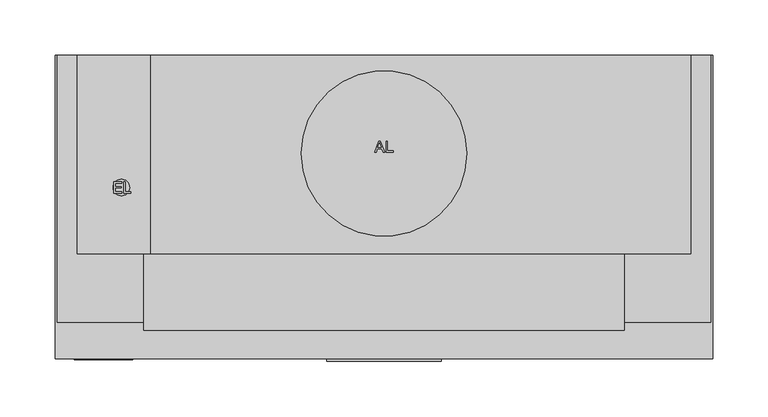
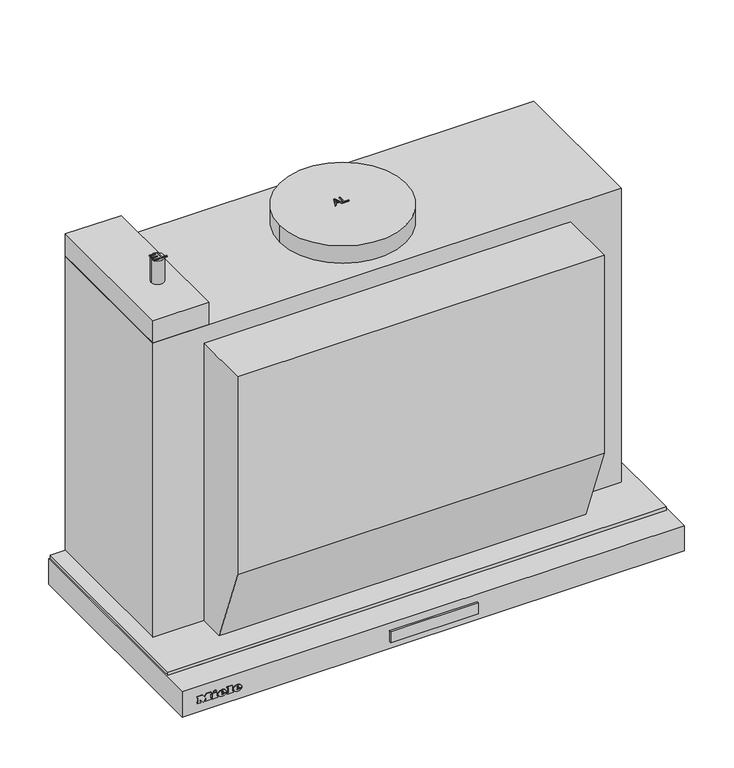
"""IFC4 building model written with IfcOpenShell, lengths in millimetres: proxy geometry, 12815100_HK_DAS2620-1_EDST : 28S2621S_HK_12815100_DAS2620-1_EDST."""

from ifc_helpers import new_model, si_unit, point, frame, frame_2d, origin, origin_with_axes, place, context, project, spatial, polyline, circle_curve, ellipse_curve, trimmed, segment, composite_curve, outline, extrude, faceted_brep, source, transform, mapped, element, save
from ifc_brep_helpers import plane_surface, cylinder_surface, revolved_surface, extruded_surface, advanced_brep


def specialty_equipment_4cb3f687(model_context):
    return source(origin(), model_context, "Body", "SolidModel", [
        extrude(outline(polyline([(52.0, -275.0), (52.0, -277.3978707), (-52.0, -277.3978707), (-52.0, -275.0), (52.0, -275.0)])), frame((0.0, 0.0, -23.0389651), z_axis=(0.0, 0.0, 1.0), x_axis=(1.0, 0.0, 0.0)), (0.0, 0.0, 1.0), 13.3389155),
        advanced_brep(
        [(-233.4590019, -276.0, -18.7681017), (-233.4590019, -276.0, -17.8894017), (-227.6387019, -276.0, -17.8894017), (-237.7655019, -276.0, -17.8894017), (-235.3730019, -276.0, -20.8300017), (-227.7866019, -276.0, -18.7681017), (-230.4140019, -276.0, -18.7681017), (-232.4846019, -276.0, -19.7425017), (-233.4590019, -276.0, -16.7758017), (-233.4590019, -276.0, -15.8275017), (-231.9713019, -276.0, -15.8275017), (-231.9713019, -276.0, -16.7758017), (-233.4590019, -275.0, -18.7681017), (-232.4846019, -275.0, -19.7425017), (-230.4140019, -275.0, -18.7681017), (-227.7866019, -275.0, -18.7681017), (-235.3730019, -275.0, -20.8300017), (-237.7655019, -275.0, -17.8894017), (-227.6387019, -275.0, -17.8894017), (-233.4590019, -275.0, -17.8894017), (-233.4590019, -275.0, -16.7758017), (-231.9713019, -275.0, -16.7758017), (-231.9713019, -275.0, -15.8275017), (-233.4590019, -275.0, -15.8275017)],
        [
            (0, 1),
            (1, 2),
            (2, 3, ellipse_curve(frame((-232.7021019, -276.0, -17.8894017), z_axis=(0.0, -1.0, 0.0), x_axis=(-1.0, 0.0, 0.0)), 5.0634, 4.1847)),
            (3, 4, circle_curve(frame((-234.3985544, -276.0, -17.5936017), z_axis=(0.0, -1.0, 0.0), x_axis=(0.0, 0.0, -1.0)), 3.3799161)),
            (4, 5, circle_curve(frame((-232.8034638, -276.0, -15.2968017), z_axis=(0.0, -1.0, 0.0), x_axis=(0.0, 0.0, -1.0)), 6.1007236)),
            (5, 6),
            (6, 7, circle_curve(frame((-232.0593254, -276.0, -17.9590017), z_axis=(0.0, 1.0, 0.0), x_axis=(0.0, 0.0, -1.0)), 1.8335027)),
            (7, 0, circle_curve(frame((-232.4846019, -276.0, -18.7681017), z_axis=(0.0, 1.0, 0.0), x_axis=(0.0, 0.0, -1.0)), 0.9744)),
            (8, 9),
            (9, 10, circle_curve(frame((-232.7151519, -276.0, -15.8275017), z_axis=(0.0, 1.0, 0.0), x_axis=(0.0, 0.0, -1.0)), 0.74385)),
            (10, 11),
            (11, 8),
            (12, 13, circle_curve(frame((-232.4846019, -275.0, -18.7681017), z_axis=(0.0, -1.0, 0.0), x_axis=(0.0, 0.0, -1.0)), 0.9744)),
            (13, 14, circle_curve(frame((-232.0593254, -275.0, -17.9590017), z_axis=(0.0, -1.0, 0.0), x_axis=(0.0, 0.0, -1.0)), 1.8335027)),
            (14, 15),
            (15, 16, circle_curve(frame((-232.8034638, -275.0, -15.2968017), z_axis=(0.0, 1.0, 0.0), x_axis=(0.0, 0.0, -1.0)), 6.1007236)),
            (16, 17, circle_curve(frame((-234.3985544, -275.0, -17.5936017), z_axis=(0.0, 1.0, 0.0), x_axis=(0.0, 0.0, -1.0)), 3.3799161)),
            (17, 18, ellipse_curve(frame((-232.7021019, -275.0, -17.8894017), z_axis=(0.0, 1.0, 0.0), x_axis=(-1.0, 0.0, 0.0)), 5.0634, 4.1847)),
            (18, 19),
            (19, 12),
            (20, 21),
            (21, 22),
            (22, 23, circle_curve(frame((-232.7151519, -275.0, -15.8275017), z_axis=(0.0, -1.0, 0.0), x_axis=(0.0, 0.0, -1.0)), 0.74385)),
            (23, 20),
            (0, 12),
            (19, 1),
            (18, 2),
            (5, 15),
            (14, 6),
            (17, 3),
            (13, 7),
            (16, 4),
            (8, 20),
            (23, 9),
            (22, 10),
            (21, 11),
        ],
        [
            plane_surface(frame((-233.4590019, -276.0, -17.8894017), z_axis=(0.0, -1.0, 0.0), x_axis=(0.0, 0.0, 1.0))),
            plane_surface(frame((-233.4590019, -275.0, -17.8894017), z_axis=(0.0, 1.0, 0.0), x_axis=(0.0, 0.0, -1.0))),
            plane_surface(frame((-233.4590019, -276.0, -18.7681017), z_axis=(1.0, 0.0, 0.0), x_axis=(0.0, 1.0, 0.0))),
            plane_surface(frame((-233.4590019, -276.0, -17.8894017), z_axis=(0.0, 0.0, -1.0), x_axis=(0.0, 1.0, 0.0))),
            plane_surface(frame((-227.7866019, -276.0, -18.7681017), z_axis=(0.0, 0.0, 1.0), x_axis=(0.0, 1.0, 0.0))),
            extruded_surface(trimmed(ellipse_curve(frame((-232.7021019, -274.0, -17.8894017), z_axis=(0.0, -1.0, 0.0), x_axis=(-1.0, 0.0, 0.0)), 5.0634, 4.1847), [point((-227.6387019, -274.0, -17.8894017))], [point((-237.7655019, -274.0, -17.8894017))], True, "CARTESIAN"), (0.0, -1.0, 0.0), 1.0),
            revolved_surface(polyline([(-232.0593254, -275.0, -19.792504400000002), (-232.0593254, -276.0, -19.792504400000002)]), (-232.0593254, -275.0, -17.9590017), (0.0, 1.0, 0.0)),
            revolved_surface(polyline([(-232.4846019, -275.0, -19.7425017), (-232.4846019, -276.0, -19.7425017)]), (-232.4846019, -275.0, -18.7681017), (0.0, 1.0, 0.0)),
            cylinder_surface(frame((-234.3985544, -275.0, -17.5936017), z_axis=(0.0, -1.0, 0.0), x_axis=(0.0, 0.0, -1.0)), 3.3799161),
            cylinder_surface(frame((-232.8034638, -275.0, -15.2968017), z_axis=(0.0, -1.0, 0.0), x_axis=(0.0, 0.0, -1.0)), 6.1007236),
            plane_surface(frame((-233.4590019, -276.0, -16.7758017), z_axis=(1.0, 0.0, 0.0), x_axis=(0.0, 1.0, 0.0))),
            revolved_surface(polyline([(-232.7151519, -275.0, -16.571351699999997), (-232.7151519, -276.0, -16.571351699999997)]), (-232.7151519, -275.0, -15.8275017), (0.0, 1.0, 0.0)),
            plane_surface(frame((-231.9713019, -276.0, -15.8275017), z_axis=(-1.0, 0.0, 0.0), x_axis=(0.0, 1.0, 0.0))),
            plane_surface(frame((-231.9713019, -276.0, -16.7758017), z_axis=(0.0, 0.0, 1.0), x_axis=(0.0, 1.0, 0.0))),
        ],
        [
            (0, [[1, 2, 3, 4, 5, 6, 7, 8], [9, 10, 11, 12]]),
            (1, [[13, 14, 15, 16, 17, 18, 19, 20], [21, 22, 23, 24]]),
            (2, [[-1, 25, -20, 26]]),
            (3, [[-2, -26, -19, 27]]),
            (4, [[-6, 28, -15, 29]]),
            (5, [[-3, -27, -18, 30]]),
            (6, [[-7, -29, -14, 31]]),
            (7, [[-8, -31, -13, -25]]),
            (8, [[-4, -30, -17, 32]]),
            (9, [[-5, -32, -16, -28]]),
            (10, [[-9, 33, -24, 34]]),
            (11, [[-10, -34, -23, 35]]),
            (12, [[-11, -35, -22, 36]]),
            (13, [[-12, -36, -21, -33]]),
        ],
    ),
        advanced_brep(
        [(-251.6159019, -276.0, -18.7681017), (-251.6159019, -276.0, -17.8894017), (-245.7956019, -276.0, -17.8894017), (-255.9224019, -276.0, -17.8894017), (-253.5299019, -276.0, -20.8300017), (-245.9435019, -276.0, -18.7681017), (-248.5709019, -276.0, -18.7681017), (-250.6415019, -276.0, -19.7425017), (-251.6159019, -276.0, -16.7758017), (-251.6159019, -276.0, -15.8275017), (-250.1282019, -276.0, -15.8275017), (-250.1282019, -276.0, -16.7758017), (-251.6159019, -275.0, -18.7681017), (-250.6415019, -275.0, -19.7425017), (-248.5709019, -275.0, -18.7681017), (-245.9435019, -275.0, -18.7681017), (-253.5299019, -275.0, -20.8300017), (-255.9224019, -275.0, -17.8894017), (-245.7956019, -275.0, -17.8894017), (-251.6159019, -275.0, -17.8894017), (-251.6159019, -275.0, -16.7758017), (-250.1282019, -275.0, -16.7758017), (-250.1282019, -275.0, -15.8275017), (-251.6159019, -275.0, -15.8275017)],
        [
            (0, 1),
            (1, 2),
            (2, 3, ellipse_curve(frame((-250.8590019, -276.0, -17.8894017), z_axis=(0.0, -1.0, 0.0), x_axis=(-1.0, 0.0, 0.0)), 5.0634, 4.1847)),
            (3, 4, circle_curve(frame((-252.5554544, -276.0, -17.5936017), z_axis=(0.0, -1.0, 0.0), x_axis=(0.0, 0.0, -1.0)), 3.3799161)),
            (4, 5, circle_curve(frame((-250.9603638, -276.0, -15.2968017), z_axis=(0.0, -1.0, 0.0), x_axis=(0.0, 0.0, -1.0)), 6.1007236)),
            (5, 6),
            (6, 7, circle_curve(frame((-250.2162254, -276.0, -17.9590017), z_axis=(0.0, 1.0, 0.0), x_axis=(0.0, 0.0, -1.0)), 1.8335027)),
            (7, 0, circle_curve(frame((-250.6415019, -276.0, -18.7681017), z_axis=(0.0, 1.0, 0.0), x_axis=(0.0, 0.0, -1.0)), 0.9744)),
            (8, 9),
            (9, 10, circle_curve(frame((-250.8720519, -276.0, -15.8275017), z_axis=(0.0, 1.0, 0.0), x_axis=(0.0, 0.0, -1.0)), 0.74385)),
            (10, 11),
            (11, 8),
            (12, 13, circle_curve(frame((-250.6415019, -275.0, -18.7681017), z_axis=(0.0, -1.0, 0.0), x_axis=(0.0, 0.0, -1.0)), 0.9744)),
            (13, 14, circle_curve(frame((-250.2162254, -275.0, -17.9590017), z_axis=(0.0, -1.0, 0.0), x_axis=(0.0, 0.0, -1.0)), 1.8335027)),
            (14, 15),
            (15, 16, circle_curve(frame((-250.9603638, -275.0, -15.2968017), z_axis=(0.0, 1.0, 0.0), x_axis=(0.0, 0.0, -1.0)), 6.1007236)),
            (16, 17, circle_curve(frame((-252.5554544, -275.0, -17.5936017), z_axis=(0.0, 1.0, 0.0), x_axis=(0.0, 0.0, -1.0)), 3.3799161)),
            (17, 18, ellipse_curve(frame((-250.8590019, -275.0, -17.8894017), z_axis=(0.0, 1.0, 0.0), x_axis=(-1.0, 0.0, 0.0)), 5.0634, 4.1847)),
            (18, 19),
            (19, 12),
            (20, 21),
            (21, 22),
            (22, 23, circle_curve(frame((-250.8720519, -275.0, -15.8275017), z_axis=(0.0, -1.0, 0.0), x_axis=(0.0, 0.0, -1.0)), 0.74385)),
            (23, 20),
            (0, 12),
            (19, 1),
            (18, 2),
            (5, 15),
            (14, 6),
            (17, 3),
            (13, 7),
            (16, 4),
            (8, 20),
            (23, 9),
            (22, 10),
            (21, 11),
        ],
        [
            plane_surface(frame((-251.6159019, -276.0, -17.8894017), z_axis=(0.0, -1.0, 0.0), x_axis=(0.0, 0.0, 1.0))),
            plane_surface(frame((-251.6159019, -275.0, -17.8894017), z_axis=(0.0, 1.0, 0.0), x_axis=(0.0, 0.0, -1.0))),
            plane_surface(frame((-251.6159019, -276.0, -18.7681017), z_axis=(1.0, 0.0, 0.0), x_axis=(0.0, 1.0, 0.0))),
            plane_surface(frame((-251.6159019, -276.0, -17.8894017), z_axis=(0.0, 0.0, -1.0), x_axis=(0.0, 1.0, 0.0))),
            plane_surface(frame((-245.9435019, -276.0, -18.7681017), z_axis=(0.0, 0.0, 1.0), x_axis=(0.0, 1.0, 0.0))),
            extruded_surface(trimmed(ellipse_curve(frame((-250.8590019, -274.0, -17.8894017), z_axis=(0.0, -1.0, 0.0), x_axis=(-1.0, 0.0, 0.0)), 5.0634, 4.1847), [point((-245.7956019, -274.0, -17.8894017))], [point((-255.9224019, -274.0, -17.8894017))], True, "CARTESIAN"), (0.0, -1.0, 0.0), 1.0),
            revolved_surface(polyline([(-250.2162254, -275.0, -19.792504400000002), (-250.2162254, -276.0, -19.792504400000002)]), (-250.2162254, -275.0, -17.9590017), (0.0, 1.0, 0.0)),
            revolved_surface(polyline([(-250.6415019, -275.0, -19.7425017), (-250.6415019, -276.0, -19.7425017)]), (-250.6415019, -275.0, -18.7681017), (0.0, 1.0, 0.0)),
            cylinder_surface(frame((-252.5554544, -275.0, -17.5936017), z_axis=(0.0, -1.0, 0.0), x_axis=(0.0, 0.0, -1.0)), 3.3799161),
            cylinder_surface(frame((-250.9603638, -275.0, -15.2968017), z_axis=(0.0, -1.0, 0.0), x_axis=(0.0, 0.0, -1.0)), 6.1007236),
            plane_surface(frame((-251.6159019, -276.0, -16.7758017), z_axis=(1.0, 0.0, 0.0), x_axis=(0.0, 1.0, 0.0))),
            revolved_surface(polyline([(-250.8720519, -275.0, -16.571351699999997), (-250.8720519, -276.0, -16.571351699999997)]), (-250.8720519, -275.0, -15.8275017), (0.0, 1.0, 0.0)),
            plane_surface(frame((-250.1282019, -276.0, -15.8275017), z_axis=(-1.0, 0.0, 0.0), x_axis=(0.0, 1.0, 0.0))),
            plane_surface(frame((-250.1282019, -276.0, -16.7758017), z_axis=(0.0, 0.0, 1.0), x_axis=(0.0, 1.0, 0.0))),
        ],
        [
            (0, [[1, 2, 3, 4, 5, 6, 7, 8], [9, 10, 11, 12]]),
            (1, [[13, 14, 15, 16, 17, 18, 19, 20], [21, 22, 23, 24]]),
            (2, [[-1, 25, -20, 26]]),
            (3, [[-2, -26, -19, 27]]),
            (4, [[-6, 28, -15, 29]]),
            (5, [[-3, -27, -18, 30]]),
            (6, [[-7, -29, -14, 31]]),
            (7, [[-8, -31, -13, -25]]),
            (8, [[-4, -30, -17, 32]]),
            (9, [[-5, -32, -16, -28]]),
            (10, [[-9, 33, -24, 34]]),
            (11, [[-10, -34, -23, 35]]),
            (12, [[-11, -35, -22, 36]]),
            (13, [[-12, -36, -21, -33]]),
        ],
    ),
        extrude(outline(polyline([(-12.6433017, -261.1250019), (-14.0527017, -260.4638019), (-12.6781017, -257.5145019), (-11.2687017, -258.1670019), (-12.6433017, -261.1250019)])), frame((0.0, -276.0, 0.0), z_axis=(0.0, 1.0, 0.0), x_axis=(0.0, 0.0, 1.0)), (0.0, 0.0, 1.0), 1.0),
        extrude(outline(polyline([(-14.2441017, -263.2739019), (-15.8014017, -263.2739019), (-15.8014017, -262.2386019), (-19.3684017, -262.2386019), (-19.3684017, -263.2739019), (-20.8300017, -263.2739019), (-20.8300017, -256.4096019), (-19.3684017, -256.4096019), (-19.3684017, -257.4188019), (-14.2441017, -257.4188019), (-14.2441017, -263.2739019)])), frame((0.0, -276.0, 0.0), z_axis=(0.0, 1.0, 0.0), x_axis=(0.0, 0.0, 1.0)), (0.0, 0.0, 1.0), 1.0),
        extrude(outline(polyline([(-13.5481017, -245.3084019), (-13.5481017, -244.2644019), (-19.3684017, -244.2644019), (-19.3684017, -245.3084019), (-20.8300017, -245.3084019), (-20.8300017, -238.2527019), (-19.3684017, -238.2527019), (-19.3684017, -239.3228019), (-12.1300017, -239.3228019), (-12.1300017, -245.3084019), (-13.5481017, -245.3084019)])), frame((0.0, -276.0, 0.0), z_axis=(0.0, 1.0, 0.0), x_axis=(0.0, 0.0, 1.0)), (0.0, 0.0, 1.0), 1.0),
        extrude(outline(polyline([(-13.5481017, -280.6130019), (-13.5481017, -279.5603019), (-19.3684017, -279.5603019), (-19.3684017, -280.6130019), (-20.8300017, -280.6130019), (-20.8300017, -276.7850019), (-19.3684017, -276.7850019), (-19.3684017, -277.8290019), (-15.6719769, -277.8290019), (-20.8300017, -273.9401019), (-15.5772794, -270.0338019), (-19.3684017, -270.0338019), (-19.3684017, -271.1039019), (-20.8300017, -271.1039019), (-20.8300017, -264.1613019), (-19.3684017, -264.1613019), (-19.3684017, -265.2662019), (-13.5481017, -265.2662019), (-13.5481017, -264.1613019), (-12.1300017, -264.1613019), (-12.1300017, -269.4596019), (-15.3925017, -272.0000019), (-12.1300017, -274.5491019), (-12.1300017, -280.6130019), (-13.5481017, -280.6130019)])), frame((0.0, -276.0, 0.0), z_axis=(0.0, 1.0, 0.0), x_axis=(0.0, 0.0, 1.0)), (0.0, 0.0, 1.0), 1.0),
        extrude(outline(polyline([(278.0, -180.0), (-278.0, -180.0), (-278.0, 0.0), (278.0, 0.0), (278.0, -180.0)])), frame((0.0, 0.0, 4.0), z_axis=(0.0, 0.0, 1.0), x_axis=(1.0, 0.0, 0.0)), (0.0, 0.0, 1.0), 369.0),
        extrude(outline(composite_curve([segment(trimmed(circle_curve(frame_2d((0.0, -89.0)), 75.0), [point((-75.0, -89.0))], [point((75.0, -89.0))], False, "CARTESIAN"), True, "CONTINUOUS"), segment(trimmed(circle_curve(frame_2d((0.0, -89.0)), 75.0), [point((75.0, -89.0))], [point((-75.0, -89.0))], False, "CARTESIAN"), True, "CONTINUOUS")], self_intersect=False)), frame((0.0, 0.0, 373.0), z_axis=(0.0, 0.0, 1.0), x_axis=(1.0, 0.0, 0.0)), (0.0, 0.0, 1.0), 22.0),
        extrude(outline(polyline([(-278.0, -180.0), (-278.0, 0.0), (-212.0, 0.0), (-212.0, -180.0), (-278.0, -180.0)])), frame((0.0, 0.0, 373.0), z_axis=(0.0, 0.0, 1.0), x_axis=(1.0, 0.0, 0.0)), (0.0, 0.0, 1.0), 28.0),
        extrude(outline(polyline([(-180.0, 352.0), (-180.0, 4.0), (-211.7966838, 4.0), (-249.5, 103.2192532), (-249.5, 352.0), (-180.0, 352.0)])), frame((-217.7156244, 0.0, 0.0), z_axis=(1.0, 0.0, 0.0), x_axis=(0.0, 1.0, 0.0)), (0.0, 0.0, 1.0), 435.4312488),
        extrude(outline(polyline([(-8.5446725, -87.975609), (-4.5347587, -77.929978), (-3.4654484, -77.929978), (0.5420128, -87.975609), (-0.7848149, -87.975609), (-1.9326067, -84.8363493), (-6.0725055, -84.8363493), (-7.2202973, -87.975609), (-8.5446725, -87.975609)]), holes=[polyline([(-5.6114267, -83.5806455), (-2.391233, -83.5806455), (-3.2986752, -81.110931), (-4.0025561, -79.1856819), (-4.6279555, -80.8951069), (-5.6114267, -83.5806455)])]), frame((0.0, 0.0, 395.0), z_axis=(0.0, 0.0, 1.0), x_axis=(1.0, 0.0, 0.0)), (0.0, 0.0, 1.0), 1.0),
        extrude(outline(polyline([(1.8835558, -87.975609), (1.8835558, -77.929978), (3.1392597, -77.929978), (3.1392597, -86.7199052), (8.1620752, -86.7199052), (8.1620752, -87.975609), (1.8835558, -87.975609)])), frame((0.0, 0.0, 395.0), z_axis=(0.0, 0.0, 1.0), x_axis=(1.0, 0.0, 0.0)), (0.0, 0.0, 1.0), 1.0),
        extrude(outline(polyline([(296.0, 0.0), (296.0, -242.0), (-296.0, -242.0), (-296.0, 0.0), (296.0, 0.0)])), origin_with_axes(), (0.0, 0.0, 1.0), 4.0),
        extrude(outline(polyline([(120.0, -19.25), (120.0, -31.75), (-120.0, -31.75), (-120.0, -19.25), (120.0, -19.25)])), frame((0.0, 0.0, -23.0), z_axis=(0.0, 0.0, 1.0), x_axis=(1.0, 0.0, 0.0)), (0.0, 0.0, 1.0), 1.785426),
        extrude(outline(polyline([(181.0813184, -268.0), (181.0813184, -246.0), (249.0, -246.0), (249.0, -268.0), (181.0813184, -268.0)])), frame((0.0, 0.0, -33.3019181), z_axis=(0.0, 0.0, 1.0), x_axis=(1.0, 0.0, 0.0)), (0.0, 0.0, 1.0), 1.3019181),
        extrude(outline(polyline([(-249.0, -268.0), (-249.0, -246.0), (-181.0, -246.0), (-181.0, -268.0), (-249.0, -268.0)])), frame((0.0, 0.0, -33.3019181), z_axis=(0.0, 0.0, 1.0), x_axis=(1.0, 0.0, 0.0)), (0.0, 0.0, 1.0), 1.3019181),
        extrude(outline(composite_curve([segment(trimmed(circle_curve(frame_2d((-238.0, -120.0)), 7.5), [point((-230.5, -120.0))], [point((-245.5, -120.0))], False, "CARTESIAN"), True, "CONTINUOUS"), segment(trimmed(circle_curve(frame_2d((-238.0, -120.0)), 7.5), [point((-245.5, -120.0))], [point((-230.5, -120.0))], False, "CARTESIAN"), True, "CONTINUOUS")], self_intersect=False)), frame((0.0, 0.0, 401.0), z_axis=(0.0, 0.0, 1.0), x_axis=(1.0, 0.0, 0.0)), (0.0, 0.0, 1.0), 30.0),
        extrude(outline(polyline([(-235.640443, -124.9184735), (-235.640443, -114.8728425), (-234.3847391, -114.8728425), (-234.3847391, -123.6627696), (-229.3619236, -123.6627696), (-229.3619236, -124.9184735), (-235.640443, -124.9184735)])), frame((0.0, 0.0, 431.0), z_axis=(0.0, 0.0, 1.0), x_axis=(1.0, 0.0, 0.0)), (0.0, 0.0, 1.0), 1.0),
        extrude(outline(polyline([(-244.9012591, -124.9184735), (-244.9012591, -114.8728425), (-237.6809618, -114.8728425), (-237.6809618, -116.1285464), (-243.6455552, -116.1285464), (-243.6455552, -119.1108431), (-237.9948878, -119.1108431), (-237.9948878, -120.366547), (-243.6455552, -120.366547), (-243.6455552, -123.6627696), (-237.5239988, -123.6627696), (-237.5239988, -124.9184735), (-244.9012591, -124.9184735)])), frame((0.0, 0.0, 431.0), z_axis=(0.0, 0.0, 1.0), x_axis=(1.0, 0.0, 0.0)), (0.0, 0.0, 1.0), 1.0),
        extrude(outline(polyline([(-298.0, 0.0), (-263.0, 0.0), (-263.0, -242.0), (263.0, -242.0), (263.0, 0.0), (298.0, 0.0), (298.0, -275.0), (-298.0, -275.0), (-298.0, 0.0)])), frame((0.0, 0.0, -32.0), z_axis=(0.0, 0.0, 1.0), x_axis=(1.0, 0.0, 0.0)), (0.0, 0.0, 1.0), 32.0),
        faceted_brep([(-126.0, -39.0, -24.0), (-126.0, -39.0, 0.0), (126.0, -39.0, 0.0), (126.0, -39.0, -24.0), (-126.0, -12.0, -24.0), (-126.0, -12.0, 0.0), (126.0, -12.0, -24.0), (126.0, -12.0, 0.0), (-263.0, -242.0, 0.0), (-263.0, 0.0, 0.0), (-263.0, 0.0, -24.0), (-263.0, -52.0, -24.0), (-263.0, -52.0, -25.0), (-263.0, -242.0, -25.0), (263.0, -52.0, -25.0), (263.0, -242.0, -25.0), (263.0, -52.0, -24.0), (263.0, 0.0, -24.0), (263.0, 0.0, 0.0), (263.0, -242.0, 0.0)], [[[0, 1, 2, 3]], [[4, 5, 1, 0]], [[6, 7, 5, 4]], [[8, 9, 10, 11, 12, 13]], [[13, 12, 14, 15]], [[16, 11, 10, 17], [6, 4, 0, 3]], [[11, 16, 14, 12]], [[18, 9, 8, 19], [5, 7, 2, 1]], [[9, 18, 17, 10]], [[19, 8, 13, 15]], [[18, 19, 15, 14, 16, 17]], [[7, 6, 3, 2]]]),
        extrude(outline(polyline([(126.0, -12.0), (126.0, -39.0), (-126.0, -39.0), (-126.0, -12.0), (126.0, -12.0)]), holes=[polyline([(120.0, -19.25), (-120.0, -19.25), (-120.0, -31.75), (120.0, -31.75), (120.0, -19.25)])]), frame((0.0, 0.0, -21.214574), z_axis=(0.0, 0.0, 1.0), x_axis=(1.0, 0.0, 0.0)), (0.0, 0.0, 1.0), 21.214574),
    ])


if __name__ == "__main__":
    model = new_model("IFC4")
    model_context = context("Model", 3, world=origin())
    ifc_project = project(units=[si_unit("LENGTHUNIT", "METRE", prefix="MILLI")], contexts=[model_context])
    site = spatial("IfcSite", under=ifc_project)
    building = spatial("IfcBuilding", under=site)
    placement = place(None, origin())
    specialty_equipment_shape = specialty_equipment_4cb3f687(model_context)
    element("IfcBuildingElementProxy", 1, Name="12815100_HK_DAS2620-1_EDST : 28S2621S_HK_12815100_DAS2620-1_EDST", ObjectType="12815100_HK_DAS2620-1_EDST : 28S2621S_HK_12815100_DAS2620-1_EDST", at=placement, inside=building, context=model_context, shape_type="MappedRepresentation", body=[
        mapped(specialty_equipment_shape, transform((0.0, 0.0, 0.0), x_axis=(1.0, 0.0, 0.0), y_axis=(0.0, 1.0, 0.0), z_axis=(0.0, 0.0, 1.0))),
    ])
    save(model, "model.ifc")
